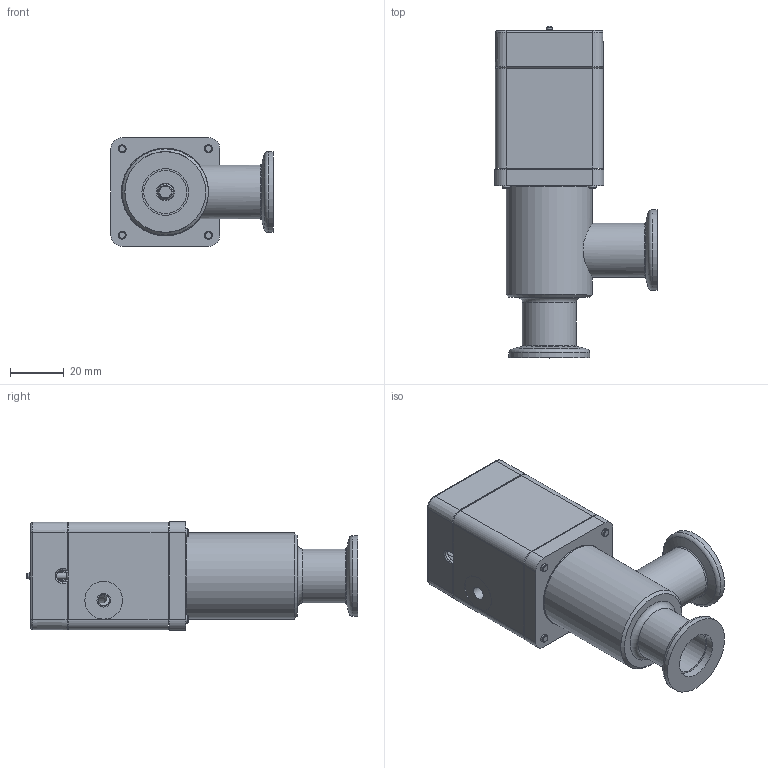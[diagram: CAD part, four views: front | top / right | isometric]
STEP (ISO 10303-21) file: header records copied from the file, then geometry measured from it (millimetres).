
FILE_DESCRIPTION(/* description */ (''),/* implementation_level */ '2;1');
FILE_NAME(/* name */ '1361053720_203.stp',/* time_stamp */ '2013-10-23T09:16:50+02:00',/* author */ (''),/* organization */ (''),/* preprocessor_version */ 'ST-DEVELOPER v11',/* originating_system */ 'SIEMENS PLM Software NX 7.5',/* authorisation */ '');
FILE_SCHEMA (('AP203_CONFIGURATION_CONTROLLED_3D_DESIGN_OF_MECHANICAL_PARTS_AND_ASSEMBLIES_MIM_LF'));
Length unit declared in the file: millimetre
Products named in the file (11): 245709.2; 245708.5; 245707.4; 233364; 236204_1.1; 243880.7; 244224.1; 244168.6; 245706.10; 239982.4; 324545
Assembly tree (14 placements, depth 3):
  324545
    244168.6
    244224.1  x4
    243880.7
    239982.4
      236204_1.1  x2
      233364
    245706.10
      245707.4
      245708.5
      245709.2
Bounding box: 60.2 x 123.1 x 40.4 mm (x, y, z)
Volume: 69890.1 mm3; surface area: 50678.2 mm2
Topology: 20 solids, 20 shells, 516 faces, 1252 edges, 814 vertices
Faces by surface type: plane 281, cylinder 129, cone 66, bspline 25, torus 15
Full cylindrical faces by diameter (mm): 2 x1, 2.3 x1, 2.36 x4, 2.4 x4, 2.5 x3, 3 x19, 3.4 x4, 4 x2, 4.2 x1, 4.7 x3, 4.8 x1, 5 x2, 5.5 x4, 5.6 x2, 6 x4, 6.013 x2, 6.5 x4, 8.85 x1, 14 x1, 16 x3, 17 x1, 17.3 x2, 20 x3, 28 x1, 29.896 x1, 29.912 x1, 30.08 x1, 32 x1, 32.35 x1, 32.4 x1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
Entity records: 14672 total; most frequent: CARTESIAN_POINT 3100, DIRECTION 2095, ORIENTED_EDGE 1902, EDGE_CURVE 951, AXIS2_PLACEMENT_3D 774, VERTEX_POINT 695, EDGE_LOOP 646, LINE 547
